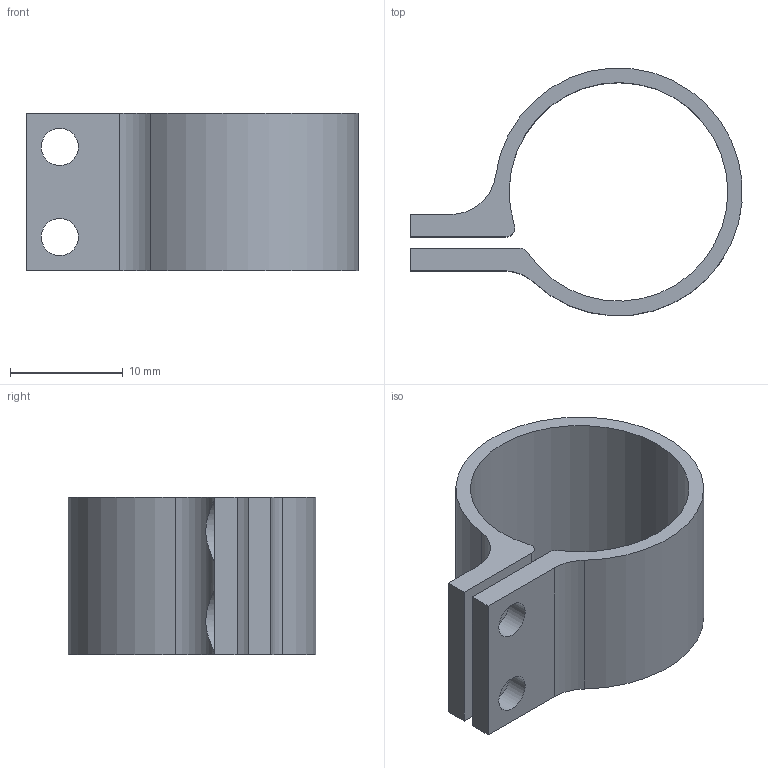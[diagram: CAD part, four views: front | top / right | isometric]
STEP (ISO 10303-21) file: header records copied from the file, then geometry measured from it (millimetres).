
FILE_DESCRIPTION(/* description */ (''),/* implementation_level */ '2;1');
FILE_NAME(/* name */ 'C:\Users\uhlma\OneDrive\Flaura\Produktentwicklung\Gehaeuse\CAD-Konstruktion\Prototyp 9\Thingiverse_Upload\Inventor\Water_Pump_Mount.stp',/* time_stamp */ '2021-07-25T11:45:45+02:00',/* author */ ('uhlma'),/* organization */ (''),/* preprocessor_version */ 'ST-DEVELOPER v18',/* originating_system */ 'Autodesk Inventor 2020',/* authorisation */ '');
FILE_SCHEMA (('AUTOMOTIVE_DESIGN { 1 0 10303 214 3 1 1 }'));
Length unit declared in the file: millimetre
Products named in the file (1): Halterung_Pumpe_210403
Bounding box: 29.46 x 21.96 x 14 mm (x, y, z)
Volume: 1618.1 mm3; surface area: 2530.3 mm2
Topology: 1 solids, 1 shells, 20 faces, 56 edges, 38 vertices
Faces by surface type: cylinder 12, plane 8
Full cylindrical faces by diameter (mm): 3.3 x4
Entity records: 747 total; most frequent: CARTESIAN_POINT 149, DIRECTION 120, ORIENTED_EDGE 112, EDGE_CURVE 56, AXIS2_PLACEMENT_3D 45, VERTEX_POINT 38, LINE 30, VECTOR 30
